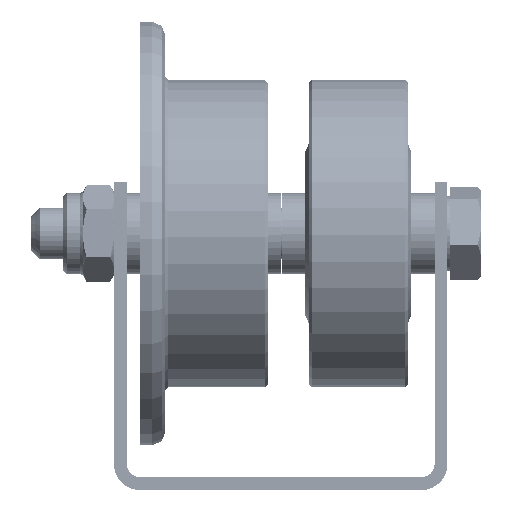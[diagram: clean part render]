
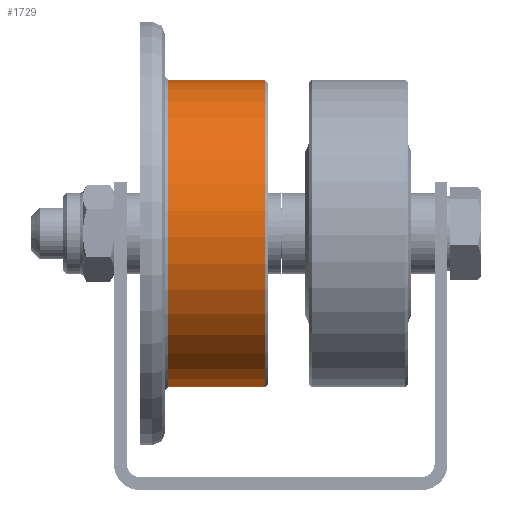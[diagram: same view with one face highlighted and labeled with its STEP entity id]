
A CAD part, front view. The second image highlights one B-rep face of the part: STEP entity #1729.
In plain terms, the highlighted cylindrical face has radius 24 mm (diameter 48 mm), a full revolution.
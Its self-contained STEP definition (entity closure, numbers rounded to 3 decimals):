
#1729 = ADVANCED_FACE( '', ( #3172, #3173 ), #3174, .T. );
#3172 = FACE_OUTER_BOUND( '', #4290, .T. );
#3173 = FACE_OUTER_BOUND( '', #4291, .T. );
#3174 = CYLINDRICAL_SURFACE( '', #4292, 24. );
#4290 = EDGE_LOOP( '', ( #5992 ) );
#4291 = EDGE_LOOP( '', ( #5993 ) );
#4292 = AXIS2_PLACEMENT_3D( '', #5994, #5995, #5996 );
#5992 = ORIENTED_EDGE( '', *, *, #6332, .T. );
#5993 = ORIENTED_EDGE( '', *, *, #6445, .T. );
#5994 = CARTESIAN_POINT( '', ( 0., -10., 0. ) );
#5995 = DIRECTION( '', ( 0., -1., 0. ) );
#5996 = DIRECTION( '', ( 0., 0., 1. ) );
#6332 = EDGE_CURVE( '', #7159, #7159, #7160, .T. );
#6445 = EDGE_CURVE( '', #7344, #7344, #7345, .F. );
#7159 = VERTEX_POINT( '', #8310 );
#7160 = CIRCLE( '', #8311, 24. );
#7344 = VERTEX_POINT( '', #8560 );
#7345 = CIRCLE( '', #8561, 24. );
#8310 = CARTESIAN_POINT( '', ( 0., -5.5, 24. ) );
#8311 = AXIS2_PLACEMENT_3D( '', #9455, #9456, #9457 );
#8560 = CARTESIAN_POINT( '', ( 0., 9.5, 24. ) );
#8561 = AXIS2_PLACEMENT_3D( '', #9667, #9668, #9669 );
#9455 = CARTESIAN_POINT( '', ( 0., -5.5, 0. ) );
#9456 = DIRECTION( '', ( 0., 1., 0. ) );
#9457 = DIRECTION( '', ( 0., 0., 1. ) );
#9667 = CARTESIAN_POINT( '', ( 0., 9.5, 0. ) );
#9668 = DIRECTION( '', ( 0., 1., 0. ) );
#9669 = DIRECTION( '', ( 0., 0., 1. ) );
